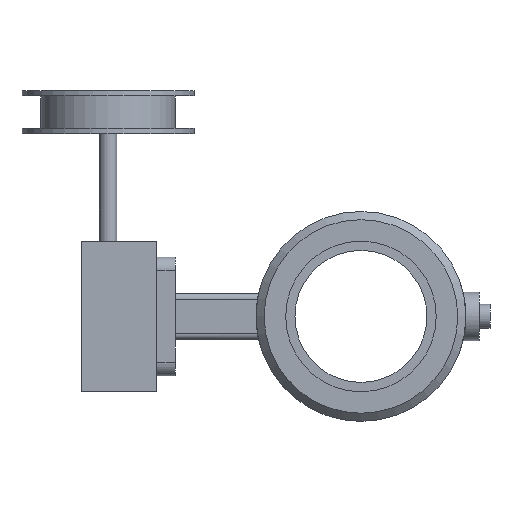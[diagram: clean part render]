
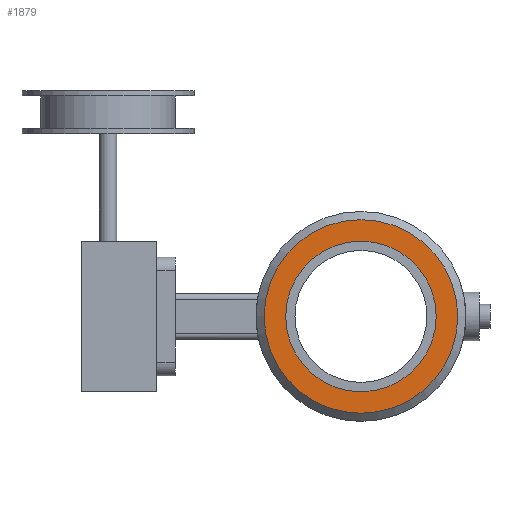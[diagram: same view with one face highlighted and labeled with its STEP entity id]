
A CAD part, left-side view. The second image highlights one B-rep face of the part: STEP entity #1879.
In plain terms, the highlighted planar face has unit normal (-1, 0, 0).
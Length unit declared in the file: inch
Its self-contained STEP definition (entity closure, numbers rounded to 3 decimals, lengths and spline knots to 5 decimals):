
#41=FACE_BOUND('',#280,.T.);
#83=PLANE('',#2078);
#160=FACE_OUTER_BOUND('',#279,.T.);
#279=EDGE_LOOP('',(#1463));
#280=EDGE_LOOP('',(#1464,#1465));
#661=CIRCLE('',#2072,2.25);
#666=CIRCLE('',#2079,1.75);
#667=CIRCLE('',#2080,1.75);
#823=VERTEX_POINT('',#3068);
#837=VERTEX_POINT('',#3188);
#838=VERTEX_POINT('',#3189);
#1047=EDGE_CURVE('',#823,#823,#661,.T.);
#1063=EDGE_CURVE('',#837,#838,#666,.T.);
#1064=EDGE_CURVE('',#838,#837,#667,.T.);
#1463=ORIENTED_EDGE('',*,*,#1047,.F.);
#1464=ORIENTED_EDGE('',*,*,#1063,.F.);
#1465=ORIENTED_EDGE('',*,*,#1064,.F.);
#1879=ADVANCED_FACE('',(#160,#41),#83,.T.);
#2072=AXIS2_PLACEMENT_3D('',#3070,#2508,#2509);
#2078=AXIS2_PLACEMENT_3D('',#3187,#2524,#2525);
#2079=AXIS2_PLACEMENT_3D('',#3190,#2526,#2527);
#2080=AXIS2_PLACEMENT_3D('',#3191,#2528,#2529);
#2508=DIRECTION('center_axis',(1.,0.,0.));
#2509=DIRECTION('ref_axis',(0.,-1.,0.));
#2524=DIRECTION('center_axis',(-1.,0.,0.));
#2525=DIRECTION('ref_axis',(0.,0.,1.));
#2526=DIRECTION('center_axis',(-1.,0.,0.));
#2527=DIRECTION('ref_axis',(0.,1.,0.));
#2528=DIRECTION('center_axis',(-1.,0.,0.));
#2529=DIRECTION('ref_axis',(0.,1.,0.));
#3068=CARTESIAN_POINT('',(-0.862,2.25,0.));
#3070=CARTESIAN_POINT('Origin',(-0.862,0.,0.));
#3187=CARTESIAN_POINT('Origin',(-0.862,2.44,0.));
#3188=CARTESIAN_POINT('',(-0.862,1.75,0.));
#3189=CARTESIAN_POINT('',(-0.862,-1.75,0.));
#3190=CARTESIAN_POINT('Origin',(-0.862,0.,
0.));
#3191=CARTESIAN_POINT('Origin',(-0.862,0.,
0.));
